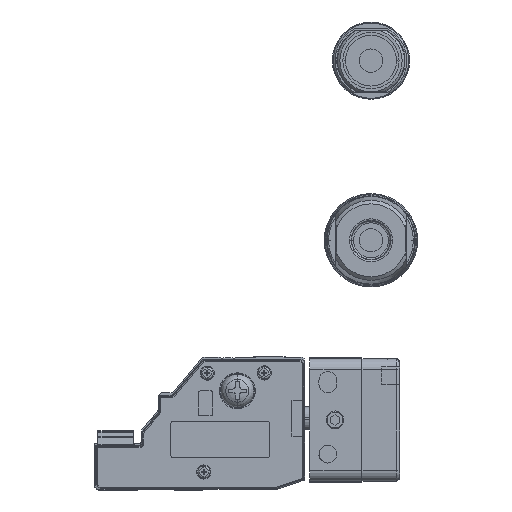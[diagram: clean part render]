
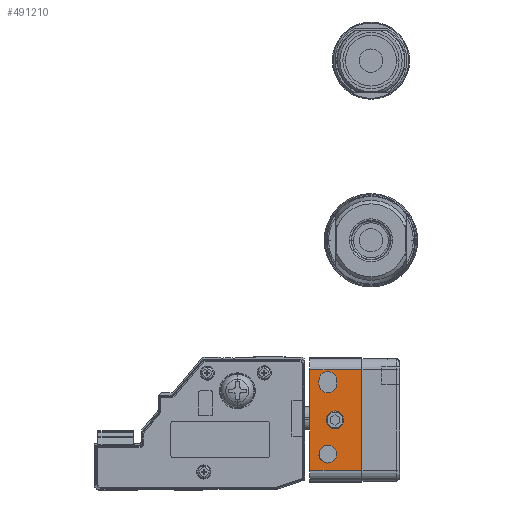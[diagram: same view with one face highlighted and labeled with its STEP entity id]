
A CAD part, left-side view. The second image highlights one B-rep face of the part: STEP entity #491210.
In plain terms, the highlighted planar face has unit normal (-1, 0, 0) as drawn and (0, 0, -1) by its records, which use the part's own axes.
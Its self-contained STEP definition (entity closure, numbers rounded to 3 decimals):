
#490160=CARTESIAN_POINT('',(-201.714,217.373,
0.));
#490170=DIRECTION('',(-0.,-0.,-1.));
#490180=DIRECTION('',(0.,-1.,0.));
#490190=AXIS2_PLACEMENT_3D('',#490160,#490170,#490180);
#490200=PLANE('',#490190);
#490210=CARTESIAN_POINT('',(-191.714,212.373,
0.));
#490220=DIRECTION('',(0.,0.,-1.));
#490230=DIRECTION('',(-1.,0.,0.));
#490240=AXIS2_PLACEMENT_3D('',#490210,#490220,#490230);
#490250=CIRCLE('',#490240,2.5);
#490260=CARTESIAN_POINT('',(-191.714,209.873,
0.));
#490270=VERTEX_POINT('',#490260);
#490280=CARTESIAN_POINT('',(-191.714,214.873,
0.));
#490290=VERTEX_POINT('',#490280);
#490300=EDGE_CURVE('',#490270,#490290,#490250,.T.);
#490310=ORIENTED_EDGE('',*,*,#490300,.F.);
#490320=CARTESIAN_POINT('',(0.,214.873,0.));
#490330=DIRECTION('',(-1.,0.,0.));
#490340=VECTOR('',#490330,1.);
#490350=LINE('',#490320,#490340);
#490360=CARTESIAN_POINT('',(-190.714,214.873,
0.));
#490370=VERTEX_POINT('',#490360);
#490380=EDGE_CURVE('',#490370,#490290,#490350,.T.);
#490390=ORIENTED_EDGE('',*,*,#490380,.T.);
#490400=CARTESIAN_POINT('',(-190.714,212.373,
0.));
#490410=DIRECTION('',(0.,0.,-1.));
#490420=DIRECTION('',(-1.,0.,0.));
#490430=AXIS2_PLACEMENT_3D('',#490400,#490410,#490420);
#490440=CIRCLE('',#490430,2.5);
#490450=CARTESIAN_POINT('',(-190.714,209.873,
0.));
#490460=VERTEX_POINT('',#490450);
#490470=EDGE_CURVE('',#490370,#490460,#490440,.T.);
#490480=ORIENTED_EDGE('',*,*,#490470,.F.);
#490490=CARTESIAN_POINT('',(0.,209.873,0.));
#490500=DIRECTION('',(1.,0.,0.));
#490510=VECTOR('',#490500,1.);
#490520=LINE('',#490490,#490510);
#490530=EDGE_CURVE('',#490270,#490460,#490520,.T.);
#490540=ORIENTED_EDGE('',*,*,#490530,.T.);
#490550=EDGE_LOOP('',(#490540,#490480,#490390,#490310));
#490560=FACE_BOUND('',#490550,.T.);
#490570=CARTESIAN_POINT('',(-171.214,212.373,
0.));
#490580=DIRECTION('',(0.,0.,-1.));
#490590=DIRECTION('',(-1.,0.,0.));
#490600=AXIS2_PLACEMENT_3D('',#490570,#490580,#490590);
#490610=CIRCLE('',#490600,2.5);
#490620=CARTESIAN_POINT('',(-173.714,212.373,
0.));
#490630=VERTEX_POINT('',#490620);
#490640=CARTESIAN_POINT('',(-168.714,212.373,
0.));
#490650=VERTEX_POINT('',#490640);
#490660=EDGE_CURVE('',#490630,#490650,#490610,.T.);
#490670=ORIENTED_EDGE('',*,*,#490660,.F.);
#490680=EDGE_CURVE('',#490650,#490630,#490610,.T.);
#490690=ORIENTED_EDGE('',*,*,#490680,.F.);
#490700=EDGE_LOOP('',(#490690,#490670));
#490710=FACE_BOUND('',#490700,.T.);
#490720=CARTESIAN_POINT('',(-180.714,210.373,
0.));
#490730=DIRECTION('',(0.,0.,-1.));
#490740=DIRECTION('',(-1.,0.,0.));
#490750=AXIS2_PLACEMENT_3D('',#490720,#490730,#490740);
#490760=CIRCLE('',#490750,2.5);
#490770=CARTESIAN_POINT('',(-183.214,210.373,
0.));
#490780=VERTEX_POINT('',#490770);
#490790=CARTESIAN_POINT('',(-178.214,210.373,
0.));
#490800=VERTEX_POINT('',#490790);
#490810=EDGE_CURVE('',#490780,#490800,#490760,.T.);
#490820=ORIENTED_EDGE('',*,*,#490810,.F.);
#490830=EDGE_CURVE('',#490800,#490780,#490760,.T.);
#490840=ORIENTED_EDGE('',*,*,#490830,.F.);
#490850=EDGE_LOOP('',(#490840,#490820));
#490860=FACE_BOUND('',#490850,.T.);
#490870=CARTESIAN_POINT('',(-166.714,-2.,0.));
#490880=DIRECTION('',(0.,1.,0.));
#490890=VECTOR('',#490880,1.);
#490900=LINE('',#490870,#490890);
#490910=CARTESIAN_POINT('',(-166.714,203.073,
0.));
#490920=VERTEX_POINT('',#490910);
#490930=CARTESIAN_POINT('',(-166.714,217.373,
0.));
#490940=VERTEX_POINT('',#490930);
#490950=EDGE_CURVE('',#490920,#490940,#490900,.T.);
#490960=ORIENTED_EDGE('',*,*,#490950,.F.);
#490970=CARTESIAN_POINT('',(0.,217.373,0.));
#490980=DIRECTION('',(-1.,0.,0.));
#490990=VECTOR('',#490980,1.);
#491000=LINE('',#490970,#490990);
#491010=CARTESIAN_POINT('',(-194.714,217.373,
0.));
#491020=VERTEX_POINT('',#491010);
#491030=EDGE_CURVE('',#490940,#491020,#491000,.T.);
#491040=ORIENTED_EDGE('',*,*,#491030,.F.);
#491050=CARTESIAN_POINT('',(-194.714,-2.,0.));
#491060=DIRECTION('',(0.,-1.,0.));
#491070=VECTOR('',#491060,1.);
#491080=LINE('',#491050,#491070);
#491090=CARTESIAN_POINT('',(-194.714,203.073,
0.));
#491100=VERTEX_POINT('',#491090);
#491110=EDGE_CURVE('',#491020,#491100,#491080,.T.);
#491120=ORIENTED_EDGE('',*,*,#491110,.F.);
#491130=CARTESIAN_POINT('',(0.,203.073,0.));
#491140=DIRECTION('',(-1.,0.,0.));
#491150=VECTOR('',#491140,1.);
#491160=LINE('',#491130,#491150);
#491170=EDGE_CURVE('',#490920,#491100,#491160,.T.);
#491180=ORIENTED_EDGE('',*,*,#491170,.T.);
#491190=EDGE_LOOP('',(#491180,#491120,#491040,#490960));
#491200=FACE_OUTER_BOUND('',#491190,.T.);
#491210=ADVANCED_FACE('',(#490560,#490710,#490860,#491200),#490200,.T.);
